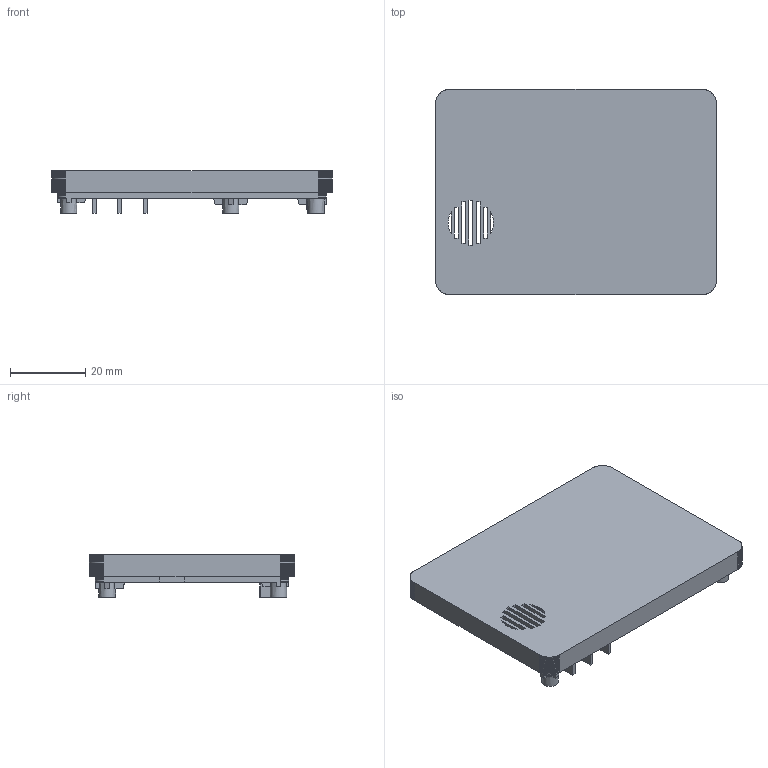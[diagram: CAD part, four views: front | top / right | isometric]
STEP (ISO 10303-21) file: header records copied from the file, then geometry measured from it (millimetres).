
FILE_DESCRIPTION(('Designed by EasyEDA Pro'),'2;1');
FILE_NAME('Open CASCADE Shape Model','2024-12-04T16:57:15',('Author'),( 'Open CASCADE'),'Open CASCADE STEP processor 7.8','Open CASCADE 7.8' ,'Unknown');
FILE_SCHEMA(('AUTOMOTIVE_DESIGN { 1 0 10303 214 1 1 1 1 }'));
Length unit declared in the file: millimetre
Products named in the file (1): Open CASCADE STEP translator 7.8 1
Bounding box: 74.5 x 54.5 x 11.3 mm (x, y, z)
Volume: 10579.7 mm3; surface area: 12657.8 mm2
Topology: 1 solids, 1 shells, 418 faces, 1236 edges, 824 vertices
Faces by surface type: bspline 418
Entity records: 30325 total; most frequent: CARTESIAN_POINT 14308, B_SPLINE_CURVE_WITH_KNOTS 3588, ORIENTED_EDGE 2472, PCURVE 2472, DEFINITIONAL_REPRESENTATION 2472, EDGE_CURVE 1236, SURFACE_CURVE 1228, VERTEX_POINT 824
